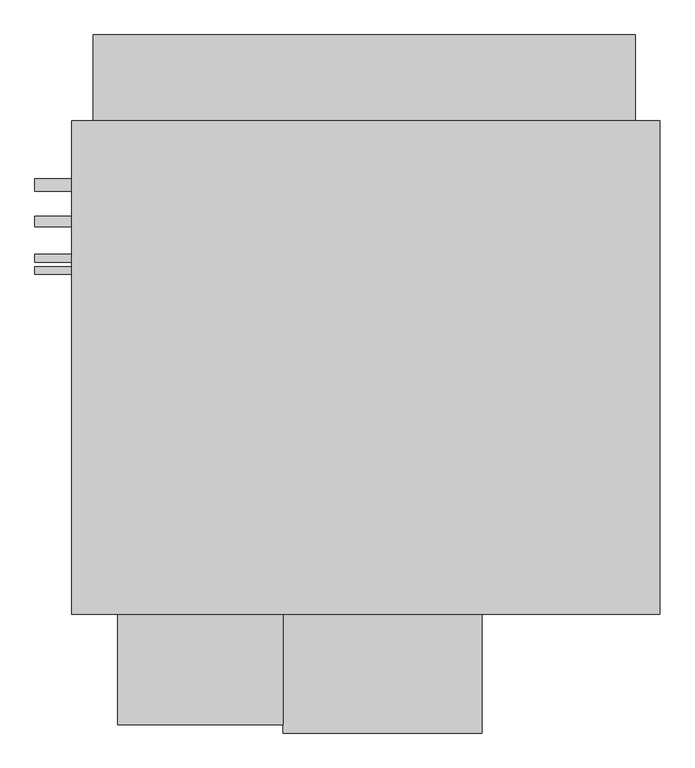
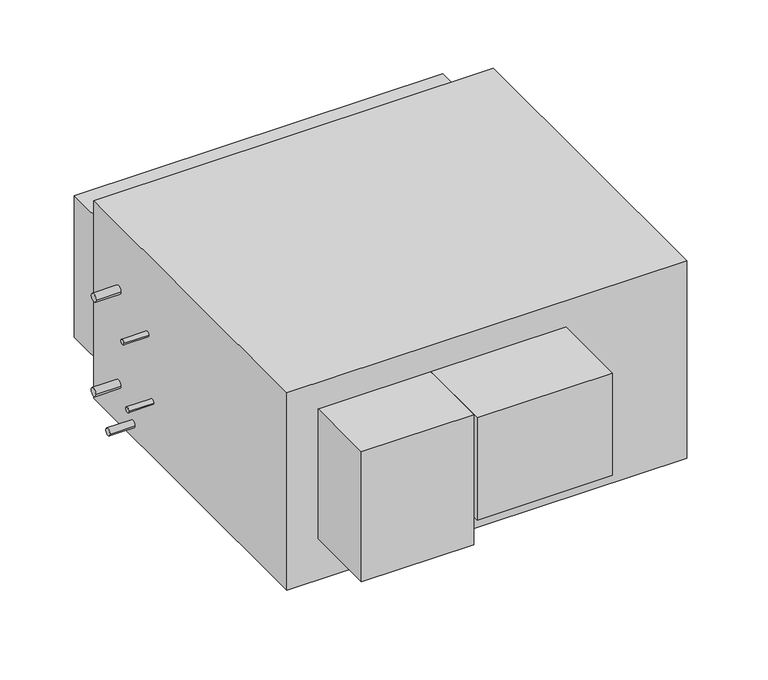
"""IFC4 building model written with IfcOpenShell, lengths in millimetres: proxy geometry, Horizontal_Direct_Drive_Blower_Coil_Unit_-_42DHA_-_CARRIER_-_4-Pipe_LH_2022 : Size 20 - 460v/60Hz/3Ph - 6/2 Coil."""

from ifc_helpers import new_model, si_unit, point, frame, frame_2d, origin, place, context, project, spatial, polyline, circle_curve, trimmed, segment, composite_curve, outline, extrude, source, transform, mapped, element, save


def mechanical_equipment_b93dabfb(model_context):
    return source(origin(), model_context, "Body", "SweptSolid", [
        extrude(outline(composite_curve([segment(trimmed(circle_curve(frame_2d((358.775, -205.7657415)), 12.7), [point((371.475, -205.7657415))], [point((346.075, -205.7657415))], False, "CARTESIAN"), True, "CONTINUOUS"), segment(trimmed(circle_curve(frame_2d((358.775, -205.7657415)), 12.7), [point((346.075, -205.7657415))], [point((371.475, -205.7657415))], False, "CARTESIAN"), True, "CONTINUOUS")], self_intersect=False)), frame((-1143.0, 0.0, 0.0), z_axis=(1.0, 0.0, 0.0), x_axis=(0.0, 1.0, 0.0)), (0.0, 0.0, 1.0), 76.2),
        extrude(outline(composite_curve([segment(trimmed(circle_curve(frame_2d((359.642288, -510.5657415)), 12.7), [point((372.342288, -510.5657415))], [point((346.942288, -510.5657415))], False, "CARTESIAN"), True, "CONTINUOUS"), segment(trimmed(circle_curve(frame_2d((359.642288, -510.5657415)), 12.7), [point((346.942288, -510.5657415))], [point((372.342288, -510.5657415))], False, "CARTESIAN"), True, "CONTINUOUS")], self_intersect=False)), frame((-1143.0, 0.0, 0.0), z_axis=(1.0, 0.0, 0.0), x_axis=(0.0, 1.0, 0.0)), (0.0, 0.0, 1.0), 76.2),
        extrude(outline(composite_curve([segment(trimmed(circle_curve(frame_2d((283.442288, -593.1157415)), 11.1125), [point((294.554788, -593.1157415))], [point((272.329788, -593.1157415))], False, "CARTESIAN"), True, "CONTINUOUS"), segment(trimmed(circle_curve(frame_2d((283.442288, -593.1157415)), 11.1125), [point((272.329788, -593.1157415))], [point((294.554788, -593.1157415))], False, "CARTESIAN"), True, "CONTINUOUS")], self_intersect=False)), frame((-1143.0, 0.0, 0.0), z_axis=(1.0, 0.0, 0.0), x_axis=(0.0, 1.0, 0.0)), (0.0, 0.0, 1.0), 76.2),
        extrude(outline(composite_curve([segment(trimmed(circle_curve(frame_2d((207.242288, -256.5657415)), 7.9375), [point((215.179788, -256.5657415))], [point((199.304788, -256.5657415))], False, "CARTESIAN"), True, "CONTINUOUS"), segment(trimmed(circle_curve(frame_2d((207.242288, -256.5657415)), 7.9375), [point((199.304788, -256.5657415))], [point((215.179788, -256.5657415))], False, "CARTESIAN"), True, "CONTINUOUS")], self_intersect=False)), frame((-1143.0, 0.0, 0.0), z_axis=(1.0, 0.0, 0.0), x_axis=(0.0, 1.0, 0.0)), (0.0, 0.0, 1.0), 76.2),
        extrude(outline(composite_curve([segment(trimmed(circle_curve(frame_2d((181.842288, -460.0449971)), 7.9375), [point((189.779788, -460.0449971))], [point((173.904788, -460.0449971))], False, "CARTESIAN"), True, "CONTINUOUS"), segment(trimmed(circle_curve(frame_2d((181.842288, -460.0449971)), 7.9375), [point((173.904788, -460.0449971))], [point((189.779788, -460.0449971))], False, "CARTESIAN"), True, "CONTINUOUS")], self_intersect=False)), frame((-1143.0, 0.0, 0.0), z_axis=(1.0, 0.0, 0.0), x_axis=(0.0, 1.0, 0.0)), (0.0, 0.0, 1.0), 76.2),
        extrude(outline(polyline([(152.4, 492.125), (152.4, -530.225), (-1066.8, -530.225), (-1066.8, 492.125), (152.4, 492.125)])), frame((0.0, 0.0, -637.5657415), z_axis=(0.0, 0.0, 1.0), x_axis=(1.0, 0.0, 0.0)), (0.0, 0.0, 1.0), 637.5657415),
        extrude(outline(polyline([(-628.65, -758.825), (-971.55, -758.825), (-971.55, -530.225), (-628.65, -530.225), (-628.65, -758.825)])), frame((0.0, 0.0, -504.2157415), z_axis=(0.0, 0.0, 1.0), x_axis=(1.0, 0.0, 0.0)), (0.0, 0.0, 1.0), 419.1),
        extrude(outline(polyline([(-1022.35, 669.925), (101.6, 669.925), (101.6, 492.125), (-1022.35, 492.125), (-1022.35, 669.925)])), frame((0.0, 0.0, -564.5407415), z_axis=(0.0, 0.0, 1.0), x_axis=(1.0, 0.0, 0.0)), (0.0, 0.0, 1.0), 457.2),
        extrude(outline(polyline([(-215.9, -776.2875), (-628.65, -776.2875), (-628.65, -530.225), (-215.9, -530.225), (-215.9, -776.2875)])), frame((0.0, 0.0, -415.3157415), z_axis=(0.0, 0.0, 1.0), x_axis=(1.0, 0.0, 0.0)), (0.0, 0.0, 1.0), 330.2),
    ])


if __name__ == "__main__":
    model = new_model("IFC4")
    model_context = context("Model", 3, world=origin())
    ifc_project = project(units=[si_unit("LENGTHUNIT", "METRE", prefix="MILLI")], contexts=[model_context])
    site = spatial("IfcSite", under=ifc_project)
    building = spatial("IfcBuilding", under=site)
    placement = place(None, origin())
    mechanical_equipment_shape = mechanical_equipment_b93dabfb(model_context)
    element("IfcBuildingElementProxy", 1, Name="Horizontal_Direct_Drive_Blower_Coil_Unit_-_42DHA_-_CARRIER_-_4-Pipe_LH_2022 : Size 20 - 460v/60Hz/3Ph - 6/2 Coil", ObjectType="Horizontal_Direct_Drive_Blower_Coil_Unit_-_42DHA_-_CARRIER_-_4-Pipe_LH_2022 : Size 20 - 460v/60Hz/3Ph - 6/2 Coil", at=placement, inside=building, context=model_context, shape_type="MappedRepresentation", body=[
        mapped(mechanical_equipment_shape, transform((0.0, 0.0, 0.0), x_axis=(1.0, 0.0, 0.0), y_axis=(0.0, 1.0, 0.0), z_axis=(0.0, 0.0, 1.0))),
    ])
    save(model, "model.ifc")
